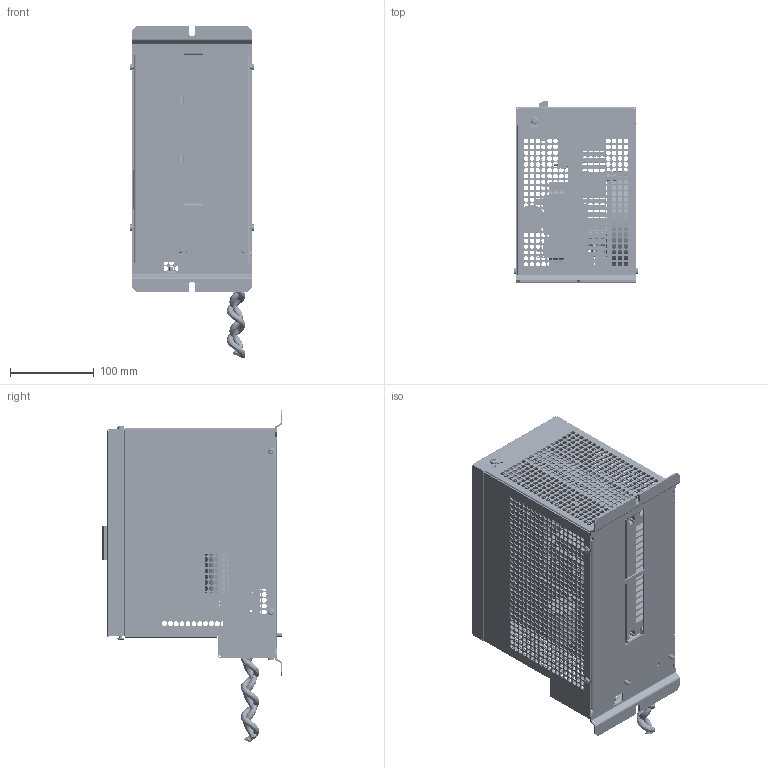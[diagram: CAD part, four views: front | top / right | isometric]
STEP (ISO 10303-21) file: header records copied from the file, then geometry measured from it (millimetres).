
FILE_DESCRIPTION((''),'2;1');
FILE_NAME('ESA3232','2015-09-11T',('giuseppe.bertuccio'),('GEFRAN S.p.A via Carducci,24 21040 Gerenzano (VA)'),'PRO/ENGINEER BY PARAMETRIC TECHNOLOGY CORPORATION, 2010480','PRO/ENGINEER BY PARAMETRIC TECHNOLOGY CORPORATION, 2010480','');
FILE_SCHEMA(('CONFIG_CONTROL_DESIGN'));
Products named in the file (42): EPZ3951; EPZ4110; EPZ3194; 8S9L04; S7G71; 8S8B97; 8S8B94; 8S8D27; EAM1835; S8HL0; S7ZZI; ESE3036-MENTOR_AF0; LED_90; RIVETTO_AF13; RIVETTO_AF14; RIVETTO_AF15; RIVETTO_AF16; PP; VERT_2P_500; COND_20P_1320; FILM_10P8_710_1260_AF1; AMP2; MC1_5X10; MC1_5X5; FASTON; ESE3036_2; EPZ3149_1; 8S8N70; S81E1; S86N8; S87N2; EAM1571_3; EPZ3955; EPZ3952_OLD; EPZ3952; EPZ3953_OLD; 8S8N09; EPZ4371; EAM1800; EPZ4109_1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
Assembly tree (65 placements, depth 4):
  ESA3232
    EAM1800
      EPZ3951
      EAM1835
        EPZ4110
        EPZ3194
        8S9L04  x2
        S7G71
        8S8B97  x2
        8S8B94  x2
        8S8D27  x2
      S8HL0
      S7ZZI
      ESE3036_2
        ESE3036-MENTOR_AF0
        RIVETTO_AF13
        RIVETTO_AF14
        RIVETTO_AF15
        RIVETTO_AF16
        LED_90  x4
        PP  x5
        VERT_2P_500
        COND_20P_1320
        FILM_10P8_710_1260_AF1
        AMP2  x3
        MC1_5X10
        MC1_5X5
        FASTON  x2
      EPZ3149_1
      8S8N70  x2
      S81E1  x4
      S86N8
      S87N2
      EAM1571_3
      EPZ3955
        EPZ3955
      EPZ3952
        EPZ3952_OLD
      EPZ3953_OLD
      8S8N09  x7
      EPZ4371
    EPZ4109_1
Bounding box: 148.8 x 215.99 x 396.49 mm (x, y, z)
Volume: 1547792.1 mm3; surface area: 1032337.7 mm2
Topology: 57 solids, 57 shells, 19716 faces, 57295 edges, 38097 vertices
Faces by surface type: plane 11391, cylinder 8203, cone 54, sphere 32, torus 26, bspline 10
Entity records: 647173 total; most frequent: CARTESIAN_POINT 117260, ORIENTED_EDGE 111242, DIRECTION 110203, EDGE_CURVE 55621, VECTOR 39193, LINE 39193, VERTEX_POINT 37019, AXIS2_PLACEMENT_3D 35505
